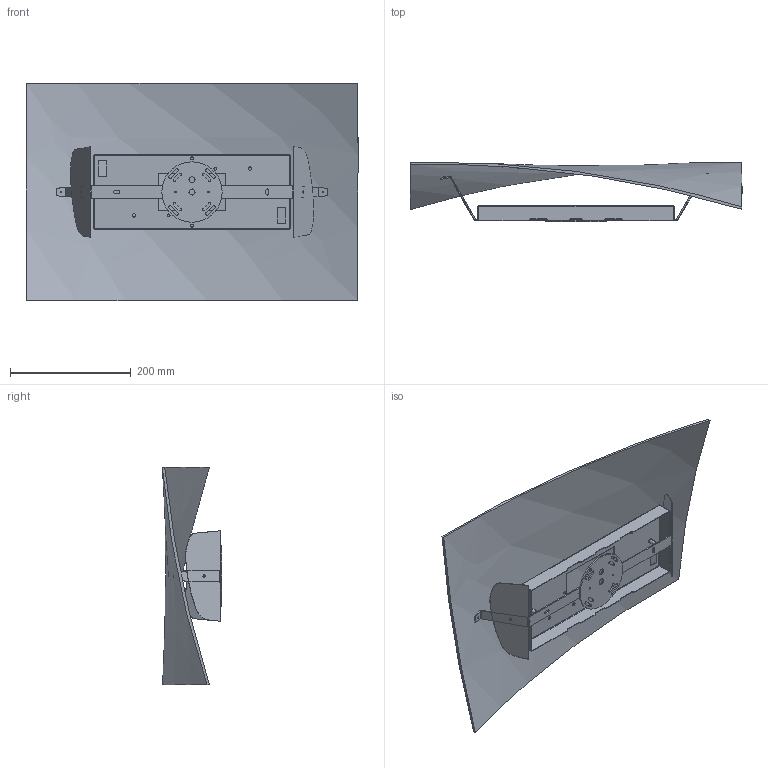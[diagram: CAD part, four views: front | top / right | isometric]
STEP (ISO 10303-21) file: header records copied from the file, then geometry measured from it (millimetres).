
FILE_DESCRIPTION (( 'STEP AP214' ), '1' );
FILE_NAME ('019_GRANDE_C_PL_3D.STEP', '2021-05-05T13:47:13', ( '' ), ( '' ), 'SwSTEP 2.0', 'SolidWorks 2021', '' );
FILE_SCHEMA (( 'AUTOMOTIVE_DESIGN' ));
Length unit declared in the file: millimetre
Products named in the file (1): 019_GRANDE_C_PL_3D
Bounding box: 550 x 98.43 x 360.14 mm (x, y, z)
Volume: 1023849.5 mm3; surface area: 591170.1 mm2
Topology: 6 solids, 6 shells, 263 faces, 736 edges, 485 vertices
Faces by surface type: cylinder 159, plane 92, cone 8, bspline 4
Entity records: 11978 total; most frequent: CARTESIAN_POINT 1929, DIRECTION 1510, ORIENTED_EDGE 1464, EDGE_CURVE 732, AXIS2_PLACEMENT_3D 562, VERTEX_POINT 485, VECTOR 386, LINE 386
